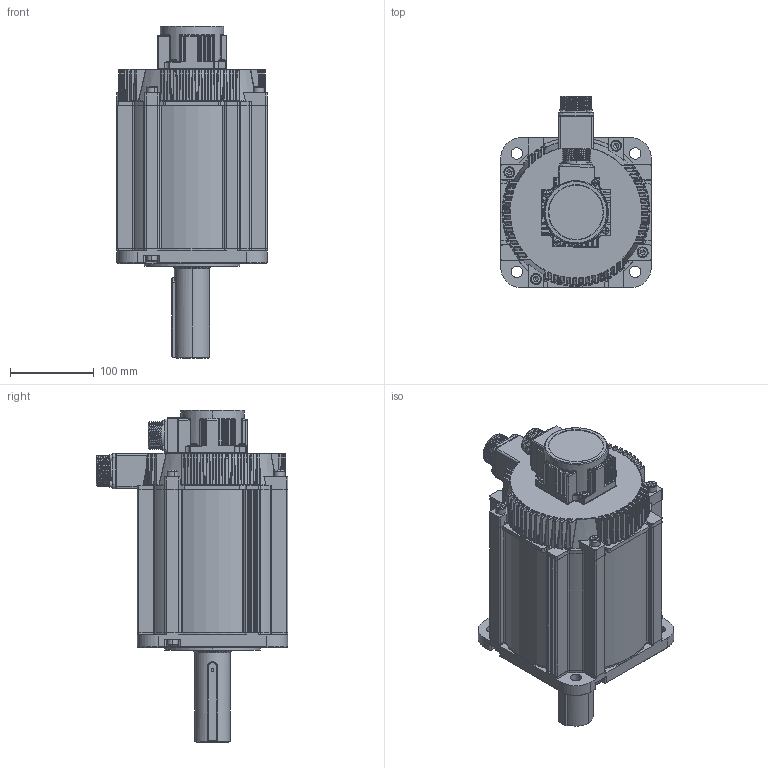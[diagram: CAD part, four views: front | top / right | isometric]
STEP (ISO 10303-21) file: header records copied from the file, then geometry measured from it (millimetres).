
FILE_DESCRIPTION (( 'STEP AP214' ), '1' );
FILE_NAME ('WB180ST-M48015 YD 粣扥42.STEP', '2025-09-18T09:32:51', ( 'PC' ), ( 'Microsoft' ), 'SwSTEP 2.0', 'SolidWorks 2018', '' );
FILE_SCHEMA (( 'AUTOMOTIVE_DESIGN' ));
Length unit declared in the file: millimetre
Products named in the file (9): WA180ST油封 45×58×7; hexagon socket head cap screws gb_GB_FASTENER_SCREWS_HSHCS M4X6-N; WB180ST-M48015 YD 粣扥42; 42粣.STEP; YD32瑤脣; 42粣扥瑩; 砎蝶菜; SF20818000X 前端盖（加工）6209_0918; WB180ST-M48015 YD 42-113.step
Assembly tree (11 placements, depth 2):
  WB180ST-M48015 YD 粣扥42
    WB180ST-M48015 YD 42-113.step
    SF20818000X 前端盖（加工）6209_0918
    WA180ST油封 45×58×7
    42粣.STEP
    42粣扥瑩
    砎蝶菜
    YD32瑤脣
    hexagon socket head cap screws gb_GB_FASTENER_SCREWS_HSHCS M4X6-N  x4
Bounding box: 180 x 229 x 397 mm (x, y, z)
Volume: 2045138.1 mm3; surface area: 634010.7 mm2
Topology: 31 solids, 31 shells, 2960 faces, 7167 edges, 4286 vertices
Faces by surface type: cylinder 977, plane 806, bspline 383, sphere 320, torus 268, cone 206
Entity records: 107756 total; most frequent: CARTESIAN_POINT 38553, DIRECTION 13832, ORIENTED_EDGE 13752, EDGE_CURVE 6876, AXIS2_PLACEMENT_3D 5709, VERTEX_POINT 4164, CIRCLE 3193, EDGE_LOOP 3096
